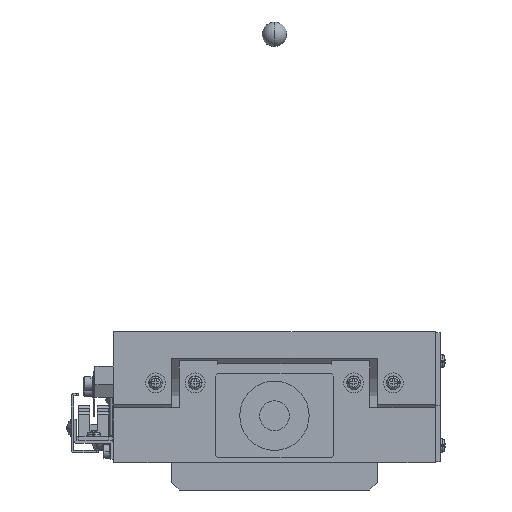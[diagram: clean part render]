
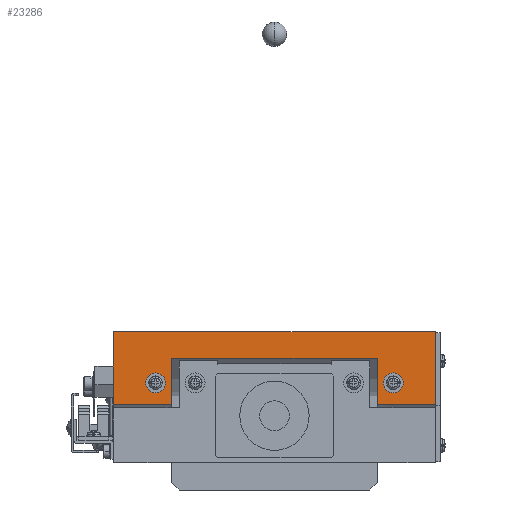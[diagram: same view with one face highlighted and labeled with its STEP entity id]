
A CAD part, left-side view. The second image highlights one B-rep face of the part: STEP entity #23286.
In plain terms, the highlighted planar face has unit normal (-1, 0, 0).
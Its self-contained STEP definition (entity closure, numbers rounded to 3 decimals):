
#584 = AXIS2_PLACEMENT_3D ( 'NONE', #23224, #58148, #9594 ) ;
#2273 = LINE ( 'NONE', #39185, #58847 ) ;
#2914 = ORIENTED_EDGE ( 'NONE', *, *, #42581, .F. ) ;
#4112 = CARTESIAN_POINT ( 'NONE',  ( -497.874, -164.229, -350.019 ) ) ;
#5002 = CARTESIAN_POINT ( 'NONE',  ( -497.874, -164.229, -320.54 ) ) ;
#5848 = EDGE_CURVE ( 'NONE', #29956, #30922, #28013, .T. ) ;
#5980 = VECTOR ( 'NONE', #9069, 1000. ) ;
#6685 = ORIENTED_EDGE ( 'NONE', *, *, #76364, .F. ) ;
#7602 = ORIENTED_EDGE ( 'NONE', *, *, #15924, .F. ) ;
#7666 = VERTEX_POINT ( 'NONE', #12526 ) ;
#8251 = AXIS2_PLACEMENT_3D ( 'NONE', #28970, #42661, #66669 ) ;
#8412 = ORIENTED_EDGE ( 'NONE', *, *, #74807, .F. ) ;
#8597 = DIRECTION ( 'NONE',  ( 0., 1., 0. ) ) ;
#9069 = DIRECTION ( 'NONE',  ( 0., 0., 1. ) ) ;
#9594 = DIRECTION ( 'NONE',  ( 0., 1., 0. ) ) ;
#9875 = CARTESIAN_POINT ( 'NONE',  ( -497.874, -265.229, -341.24 ) ) ;
#11217 = CARTESIAN_POINT ( 'NONE',  ( -497.874, -262.729, -331.272 ) ) ;
#11740 = LINE ( 'NONE', #5002, #38903 ) ;
#12029 = DIRECTION ( 'NONE',  ( -1., 0., 0. ) ) ;
#12526 = CARTESIAN_POINT ( 'NONE',  ( -497.874, -177.229, -341.24 ) ) ;
#13665 = DIRECTION ( 'NONE',  ( 0., 0., 1. ) ) ;
#14078 = CIRCLE ( 'NONE', #74518, 4. ) ;
#14096 = EDGE_LOOP ( 'NONE', ( #6685, #46332 ) ) ;
#14528 = CARTESIAN_POINT ( 'NONE',  ( -497.874, -173.229, -341.24 ) ) ;
#14835 = DIRECTION ( 'NONE',  ( 0., 1., 0. ) ) ;
#15924 = EDGE_CURVE ( 'NONE', #23278, #75123, #31955, .T. ) ;
#16187 = DIRECTION ( 'NONE',  ( -1., 0., 0. ) ) ;
#16410 = EDGE_CURVE ( 'NONE', #61887, #7666, #77498, .T. ) ;
#18576 = DIRECTION ( 'NONE',  ( 0., 0., 1. ) ) ;
#19234 = CARTESIAN_POINT ( 'NONE',  ( -497.874, -164.229, -350.019 ) ) ;
#22589 = VERTEX_POINT ( 'NONE', #11217 ) ;
#22619 = VECTOR ( 'NONE', #89289, 1000. ) ;
#22961 = DIRECTION ( 'NONE',  ( 0., 1., 0. ) ) ;
#23224 = CARTESIAN_POINT ( 'NONE',  ( -497.874, -173.229, -341.24 ) ) ;
#23278 = VERTEX_POINT ( 'NONE', #80963 ) ;
#23286 = ADVANCED_FACE ( 'NONE', ( #81480, #60779, #30342 ), #67002, .T. ) ;
#23926 = ORIENTED_EDGE ( 'NONE', *, *, #74866, .F. ) ;
#24442 = LINE ( 'NONE', #89713, #5980 ) ;
#24599 = CARTESIAN_POINT ( 'NONE',  ( -497.874, -156.229, -320.54 ) ) ;
#26378 = EDGE_CURVE ( 'NONE', #63255, #29103, #24442, .T. ) ;
#26708 = CARTESIAN_POINT ( 'NONE',  ( -497.874, -262.729, -332.388 ) ) ;
#27409 = ORIENTED_EDGE ( 'NONE', *, *, #45371, .T. ) ;
#28013 = LINE ( 'NONE', #82024, #22619 ) ;
#28357 = CARTESIAN_POINT ( 'NONE',  ( -497.874, -179.729, -350.019 ) ) ;
#28970 = CARTESIAN_POINT ( 'NONE',  ( -497.874, -269.229, -341.24 ) ) ;
#29103 = VERTEX_POINT ( 'NONE', #24599 ) ;
#29956 = VERTEX_POINT ( 'NONE', #28357 ) ;
#30342 = FACE_BOUND ( 'NONE', #14096, .T. ) ;
#30922 = VERTEX_POINT ( 'NONE', #39921 ) ;
#31955 = LINE ( 'NONE', #87736, #49293 ) ;
#38903 = VECTOR ( 'NONE', #81249, 1000. ) ;
#39185 = CARTESIAN_POINT ( 'NONE',  ( -497.874, -286.229, -350.019 ) ) ;
#39522 = DIRECTION ( 'NONE',  ( 0., 1., 0. ) ) ;
#39921 = CARTESIAN_POINT ( 'NONE',  ( -497.874, -179.729, -331.272 ) ) ;
#42581 = EDGE_CURVE ( 'NONE', #75123, #22589, #68495, .T. ) ;
#42661 = DIRECTION ( 'NONE',  ( -1., 0., 0. ) ) ;
#44144 = CIRCLE ( 'NONE', #8251, 4. ) ;
#45371 = EDGE_CURVE ( 'NONE', #69330, #29103, #11740, .T. ) ;
#46332 = ORIENTED_EDGE ( 'NONE', *, *, #64505, .F. ) ;
#48233 = CARTESIAN_POINT ( 'NONE',  ( -497.874, -286.229, -320.54 ) ) ;
#48558 = CARTESIAN_POINT ( 'NONE',  ( -497.874, -156.229, -350.019 ) ) ;
#49293 = VECTOR ( 'NONE', #74669, 1000. ) ;
#50169 = CARTESIAN_POINT ( 'NONE',  ( -497.874, -269.229, -341.24 ) ) ;
#51226 = CARTESIAN_POINT ( 'NONE',  ( -497.874, -273.229, -341.24 ) ) ;
#53126 = VECTOR ( 'NONE', #22961, 1000. ) ;
#53387 = ORIENTED_EDGE ( 'NONE', *, *, #73616, .T. ) ;
#53610 = CARTESIAN_POINT ( 'NONE',  ( -497.874, -262.729, -350.019 ) ) ;
#55175 = AXIS2_PLACEMENT_3D ( 'NONE', #50169, #16187, #8597 ) ;
#56389 = DIRECTION ( 'NONE',  ( -1., 0., 0. ) ) ;
#57102 = EDGE_LOOP ( 'NONE', ( #63775, #8412 ) ) ;
#58148 = DIRECTION ( 'NONE',  ( -1., 0., 0. ) ) ;
#58685 = VECTOR ( 'NONE', #13665, 1000. ) ;
#58847 = VECTOR ( 'NONE', #18576, 1000. ) ;
#58939 = CIRCLE ( 'NONE', #55175, 4. ) ;
#60174 = VERTEX_POINT ( 'NONE', #51226 ) ;
#60779 = FACE_BOUND ( 'NONE', #57102, .T. ) ;
#61887 = VERTEX_POINT ( 'NONE', #78575 ) ;
#63255 = VERTEX_POINT ( 'NONE', #48558 ) ;
#63775 = ORIENTED_EDGE ( 'NONE', *, *, #16410, .F. ) ;
#64505 = EDGE_CURVE ( 'NONE', #60174, #64975, #58939, .T. ) ;
#64975 = VERTEX_POINT ( 'NONE', #9875 ) ;
#66443 = ORIENTED_EDGE ( 'NONE', *, *, #83795, .F. ) ;
#66669 = DIRECTION ( 'NONE',  ( 0., 1., 0. ) ) ;
#67002 = PLANE ( 'NONE',  #86631 ) ;
#68495 = LINE ( 'NONE', #26708, #58685 ) ;
#69330 = VERTEX_POINT ( 'NONE', #48233 ) ;
#71010 = CARTESIAN_POINT ( 'NONE',  ( -497.874, -241.229, -331.272 ) ) ;
#71392 = LINE ( 'NONE', #19234, #77937 ) ;
#73616 = EDGE_CURVE ( 'NONE', #23278, #69330, #2273, .T. ) ;
#74518 = AXIS2_PLACEMENT_3D ( 'NONE', #14528, #56389, #14835 ) ;
#74669 = DIRECTION ( 'NONE',  ( 0., 1., 0. ) ) ;
#74807 = EDGE_CURVE ( 'NONE', #7666, #61887, #14078, .T. ) ;
#74866 = EDGE_CURVE ( 'NONE', #22589, #30922, #75983, .T. ) ;
#75123 = VERTEX_POINT ( 'NONE', #53610 ) ;
#75983 = LINE ( 'NONE', #71010, #53126 ) ;
#76364 = EDGE_CURVE ( 'NONE', #64975, #60174, #44144, .T. ) ;
#77498 = CIRCLE ( 'NONE', #584, 4. ) ;
#77937 = VECTOR ( 'NONE', #39522, 1000. ) ;
#78575 = CARTESIAN_POINT ( 'NONE',  ( -497.874, -169.229, -341.24 ) ) ;
#80674 = DIRECTION ( 'NONE',  ( 0., 0., 1. ) ) ;
#80963 = CARTESIAN_POINT ( 'NONE',  ( -497.874, -286.229, -350.019 ) ) ;
#81249 = DIRECTION ( 'NONE',  ( 0., 1., 0. ) ) ;
#81480 = FACE_OUTER_BOUND ( 'NONE', #86299, .T. ) ;
#81828 = ORIENTED_EDGE ( 'NONE', *, *, #5848, .T. ) ;
#82024 = CARTESIAN_POINT ( 'NONE',  ( -497.874, -179.729, -332.388 ) ) ;
#83795 = EDGE_CURVE ( 'NONE', #29956, #63255, #71392, .T. ) ;
#83914 = ORIENTED_EDGE ( 'NONE', *, *, #26378, .F. ) ;
#86299 = EDGE_LOOP ( 'NONE', ( #2914, #7602, #53387, #27409, #83914, #66443, #81828, #23926 ) ) ;
#86631 = AXIS2_PLACEMENT_3D ( 'NONE', #4112, #12029, #80674 ) ;
#87736 = CARTESIAN_POINT ( 'NONE',  ( -497.874, -286.229, -350.019 ) ) ;
#89289 = DIRECTION ( 'NONE',  ( 0., 0., 1. ) ) ;
#89713 = CARTESIAN_POINT ( 'NONE',  ( -497.874, -156.229, -350.019 ) ) ;
